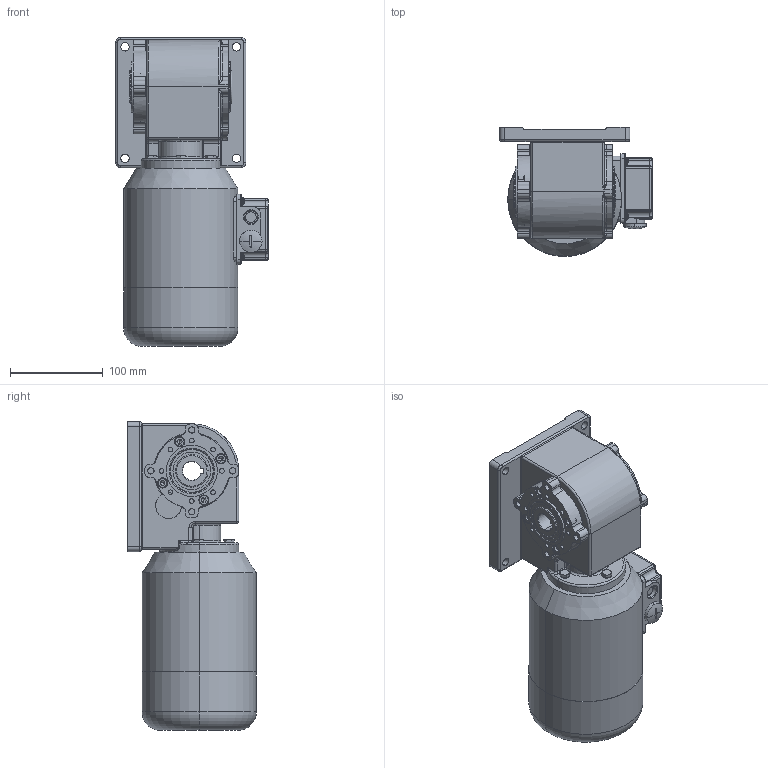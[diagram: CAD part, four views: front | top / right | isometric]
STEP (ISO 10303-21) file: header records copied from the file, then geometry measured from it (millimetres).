
FILE_DESCRIPTION (( 'STEP AP214' ), '1' );
FILE_NAME ('SN13H_120W_250W_Drehstrom-Motor_D.STEP', '2022-03-15T15:35:24', ( '' ), ( '' ), 'SwSTEP 2.0', 'SolidWorks 2019', '' );
FILE_SCHEMA (( 'AUTOMOTIVE_DESIGN' ));
Length unit declared in the file: millimetre
Products named in the file (13): K_28x9.0; socket head cap screw_iso_ISO 4762 M6 x 16 - 16C; hex screw gradeab_iso_ISO 4017 - M6 x 20-C; NBR_WDR_30x47x7; SN13H_120W_250W_Drehstrom-Motor_D; Kupferscheibe Ø6x10x1 DIN7603 A; 13H-W-003_3D-Export; SN13H_3D_Export; 03-M-268 I 250W_2800Upm; 13H-D-001_3D_Export; 13-G-004_3D-Export; 13FH-F-001_3D-Export; socket set screw flat point_iso_ISO 4026 - M6 x 30-C
Assembly tree (27 placements, depth 3):
  SN13H_120W_250W_Drehstrom-Motor_D
    SN13H_3D_Export
      13-G-004_3D-Export
      13H-D-001_3D_Export
      13FH-F-001_3D-Export
      K_28x9.0
      13H-W-003_3D-Export
      NBR_WDR_30x47x7  x2
      Kupferscheibe Ø6x10x1 DIN7603 A  x4
      hex screw gradeab_iso_ISO 4017 - M6 x 20-C  x3
      socket set screw flat point_iso_ISO 4026 - M6 x 30-C
      socket head cap screw_iso_ISO 4762 M6 x 16 - 16C  x10
    03-M-268 I 250W_2800Upm
Bounding box: 164.2 x 138.5 x 332.5 mm (x, y, z)
Volume: 3567940.6 mm3; surface area: 323922.4 mm2
Topology: 27 solids, 27 shells, 1331 faces, 3200 edges, 1924 vertices
Faces by surface type: cylinder 470, plane 377, cone 216, torus 208, bspline 31, sphere 29
Entity records: 33151 total; most frequent: CARTESIAN_POINT 7835, DIRECTION 5479, ORIENTED_EDGE 4792, EDGE_CURVE 2396, AXIS2_PLACEMENT_3D 2314, VERTEX_POINT 1499, CIRCLE 1332, EDGE_LOOP 1111
